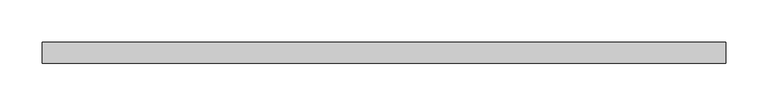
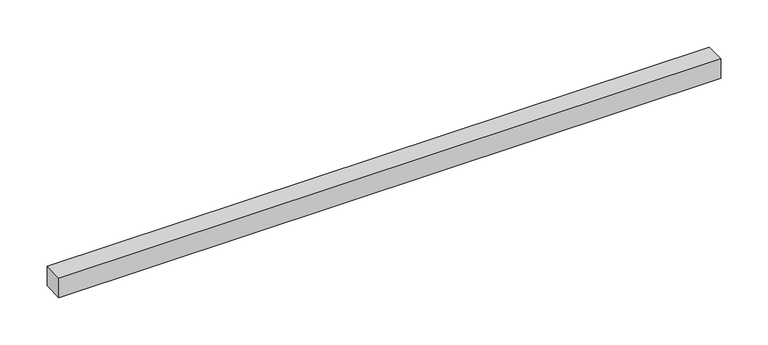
"""IFC4 building model written with IfcOpenShell, lengths in millimetres: proxy geometry, FOUNDATION^WORKSURFACES_1x1 BLOCKING-32."""

from ifc_helpers import new_model, si_unit, origin, origin_with_axes, place, context, project, spatial, polyline, outline, extrude, source, transform, mapped, element, save


def generic_models_e0aebaa7(model_context):
    return source(origin(), model_context, "Body", "SweptSolid", [
        extrude(outline(polyline([(0.0, 0.0), (0.0, 25.4), (812.8, 25.4), (812.8, 0.0), (0.0, 0.0)])), origin_with_axes(), (0.0, 0.0, 1.0), 25.4),
    ])


if __name__ == "__main__":
    model = new_model("IFC4")
    model_context = context("Model", 3, world=origin())
    ifc_project = project(units=[si_unit("LENGTHUNIT", "METRE", prefix="MILLI")], contexts=[model_context])
    site = spatial("IfcSite", under=ifc_project)
    building = spatial("IfcBuilding", under=site)
    placement = place(None, origin())
    generic_models_shape = generic_models_e0aebaa7(model_context)
    element("IfcBuildingElementProxy", 1, Name="FOUNDATION^WORKSURFACES_1x1 BLOCKING-32", ObjectType="FOUNDATION^WORKSURFACES_1x1 BLOCKING-32", at=placement, inside=building, context=model_context, shape_type="MappedRepresentation", body=[
        mapped(generic_models_shape, transform((0.0, 0.0, 0.0), x_axis=(1.0, 0.0, 0.0), y_axis=(0.0, 1.0, 0.0), z_axis=(0.0, 0.0, 1.0))),
    ])
    save(model, "model.ifc")
